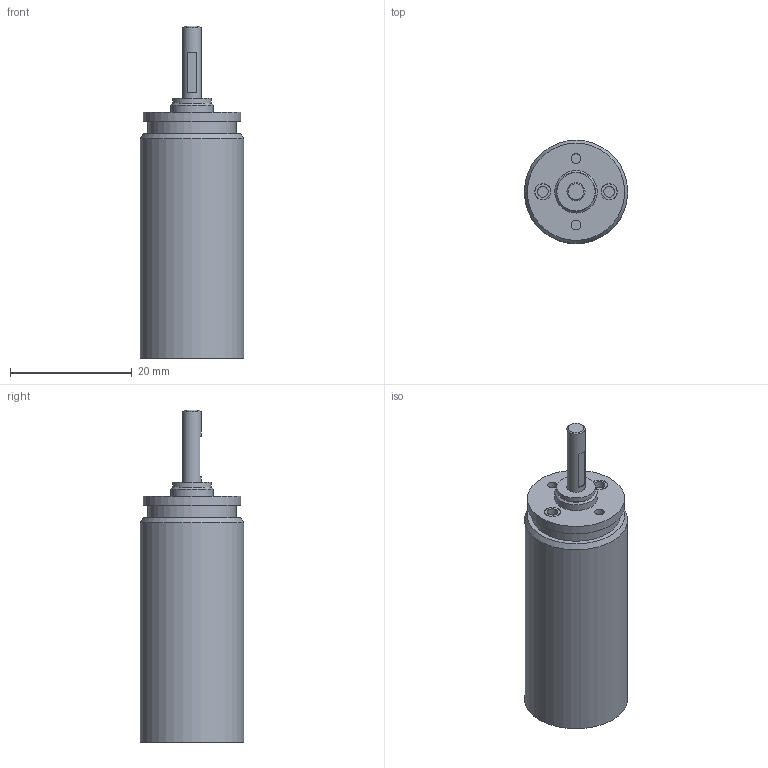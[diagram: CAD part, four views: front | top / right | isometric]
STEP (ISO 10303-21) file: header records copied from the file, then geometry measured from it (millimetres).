
FILE_DESCRIPTION(/* description */ (''),/* implementation_level */ '2;1');
FILE_NAME(/* name */ '16-5_8.stp',/* time_stamp */ '2016-08-25T11:35:11+02:00',/* author */ ('DR. FRITZ FAULHABER GmbH & Co. KG'),/* organization */ ('DR. FRITZ FAULHABER GmbH & Co. KG'),/* preprocessor_version */ 'ST-DEVELOPER v16',/* originating_system */ 'SIEMENS PLM Software NX 10.0',/* authorisation */ '');
FILE_SCHEMA (('AUTOMOTIVE_DESIGN { 1 0 10303 214 3 1 1 1 }'));
Length unit declared in the file: millimetre
Products named in the file (1): H00000537_A
Bounding box: 17 x 17 x 54.6 mm (x, y, z)
Volume: 6481 mm3; surface area: 3562.5 mm2
Topology: 1 solids, 1 shells, 41 faces, 65 edges, 43 vertices
Faces by surface type: plane 21, cylinder 17, cone 3
Full cylindrical faces by diameter (mm): 1.6 x2, 1.8 x2, 2.48 x1, 2.584 x2, 2.684 x2, 3 x1, 6 x1, 6.3 x1, 7 x1, 14.5 x1, 16 x2, 17 x1
Entity records: 856 total; most frequent: DIRECTION 166, CARTESIAN_POINT 126, ORIENTED_EDGE 86, AXIS2_PLACEMENT_3D 81, EDGE_LOOP 78, FACE_BOUND 69, EDGE_CURVE 43, ADVANCED_FACE 41
